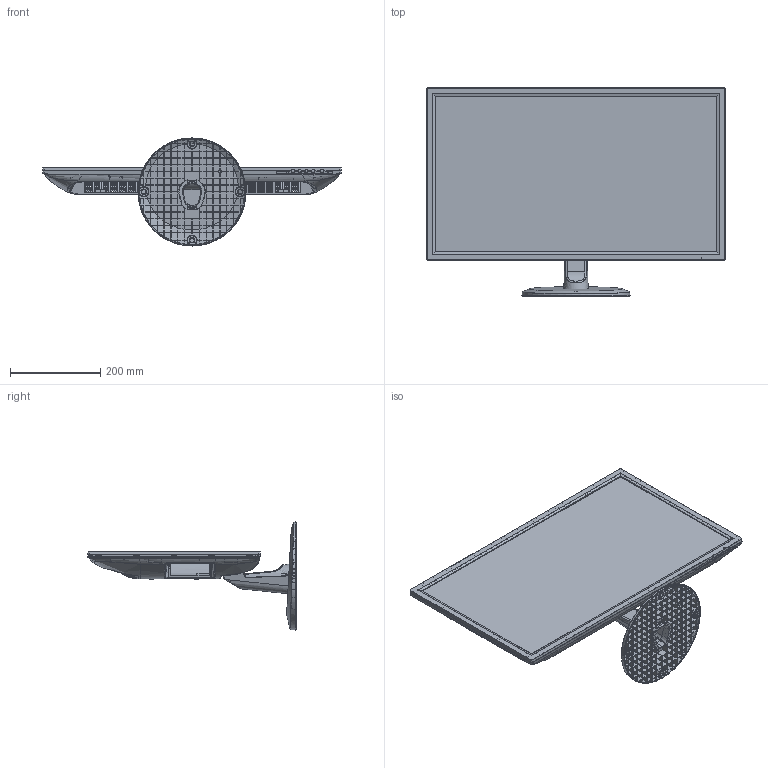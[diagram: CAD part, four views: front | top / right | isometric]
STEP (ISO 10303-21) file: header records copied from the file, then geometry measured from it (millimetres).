
FILE_DESCRIPTION (( 'STEP AP214' ), '1' );
FILE_NAME ('997-7685-00.STEP', '2014-06-11T18:49:12', ( 'IT Admin' ), ( 'Planar Systems, iNC.' ), 'SwSTEP 2.0', 'SolidWorks 2014', '' );
FILE_SCHEMA (( 'AUTOMOTIVE_DESIGN' ));
Length unit declared in the file: millimetre
Products named in the file (28): PRT0197_1_1_1_1_1_1_1; PRT0196_1_1_1_1_1_1_1; PRT0195_1_1_1_1_1_1_1; ASM0014_ASM_1_ASM_1_ASM_1_ASM_1_ASM; ASM0015_ASM_1_ASM_1_ASM_1_ASM_1_ASM; PRT0194_1_1_1_1_1_1_1; PRT0192_1_1_1_1_1_1_1; PRT0191_1_1_1_1_1_1_1; L27XX-STAND-ASM_ASM_6_ASM_1_ASM; L27XX-STAND_1_1; L28AZ_20140319_3_ASM_1_ASM_1_ASM; L27XX-NECK_1_1; L28AZ_20140319_2_ASM_1_ASM_1_AS_ASM; L28AZ-ME-PLASTIC_ASM_14_ASM_3_ASM; L28AZ_20140319_1_ASM_1_ASM_1_AS_ASM; L28AZXX-LENS_6_1; L28AZ_20140318_5_ASM_1_ASM_1_AS_ASM; L28AZ-ME-CABI_BACK-4K2K-1_1; L28AZ_20140318_4_ASM_1_ASM_1_AS_ASM; L28AZ-ME-FRONT_BEZEL_27_1; ASM0011_ASM_1_ASM_1_ASM_1_ASM_1_ASM; PRT0201_1_1_1_1_1_1; 997-7685-00; PRT0200_1_1_1_1_1_1_1; ASM0012_ASM_1_ASM_1_ASM_1_ASM_1_ASM; ASM0013_ASM_1_ASM_1_ASM_1_ASM_1_ASM; L27XX-STAND-ASM_ASM_ASM_1_ASM; PRT0198_1_1_1_1_1_1_1
Assembly tree (37 placements, depth 14):
  997-7685-00
    L28AZ-ME-PLASTIC_ASM_14_ASM_3_ASM
      L28AZ-ME-FRONT_BEZEL_27_1
      L28AZ-ME-CABI_BACK-4K2K-1_1
      L28AZXX-LENS_6_1
    L27XX-STAND-ASM_ASM_ASM_1_ASM
      L27XX-STAND-ASM_ASM_6_ASM_1_ASM
        L27XX-NECK_1_1
        L27XX-STAND_1_1
        L28AZ_20140319_3_ASM_1_ASM_1_ASM
          L28AZ_20140319_2_ASM_1_ASM_1_AS_ASM
            L28AZ_20140319_1_ASM_1_ASM_1_AS_ASM
              L28AZ_20140318_5_ASM_1_ASM_1_AS_ASM
                L28AZ_20140318_4_ASM_1_ASM_1_AS_ASM
                  ASM0011_ASM_1_ASM_1_ASM_1_ASM_1_ASM
                    PRT0200_1_1_1_1_1_1_1  x4
                    PRT0201_1_1_1_1_1_1  x2
Bounding box: 662.93 x 462.96 x 239.91 mm (x, y, z)
Volume: 1033371.2 mm3; surface area: 1552777.1 mm2
Topology: 23 solids, 24 shells, 8095 faces, 23053 edges, 15261 vertices
Faces by surface type: plane 5287, cylinder 1857, bspline 755, cone 196
Entity records: 368266 total; most frequent: CARTESIAN_POINT 183234, ORIENTED_EDGE 44968, DIRECTION 27238, EDGE_CURVE 22503, VERTEX_POINT 14905, VECTOR 11662, LINE 11662, B_SPLINE_CURVE_WITH_KNOTS 9900
